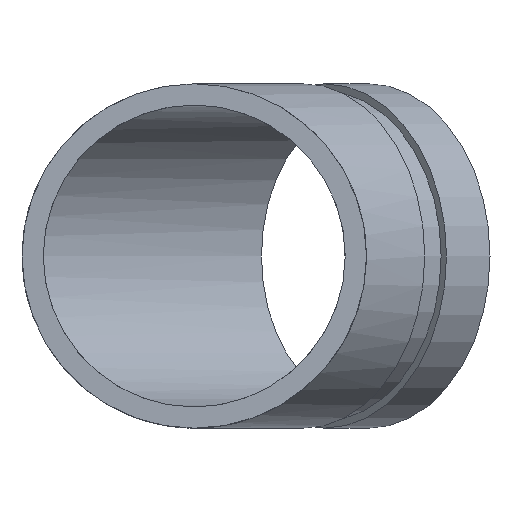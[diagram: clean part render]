
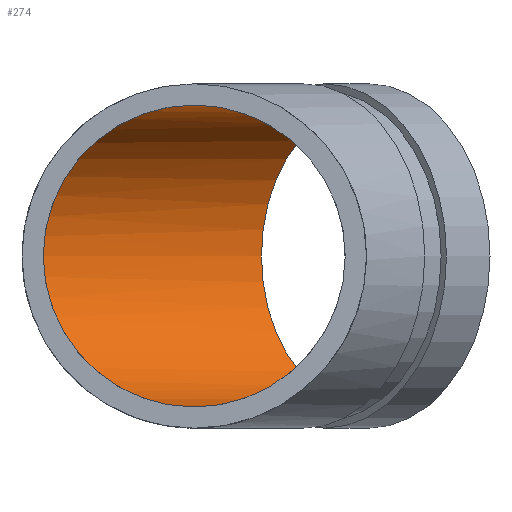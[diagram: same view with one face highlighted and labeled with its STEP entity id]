
A CAD part, front view. The second image highlights one B-rep face of the part: STEP entity #274.
In plain terms, the highlighted cylindrical face has radius 38.964 mm (diameter 77.927 mm), a full revolution.
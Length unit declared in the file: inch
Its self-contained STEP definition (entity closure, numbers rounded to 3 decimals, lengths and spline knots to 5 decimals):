
#45=ELLIPSE('',#322,1.66039,1.534);
#46=ELLIPSE('',#323,1.66039,1.534);
#47=ELLIPSE('',#324,1.66039,1.534);
#72=FACE_OUTER_BOUND('',#90,.T.);
#90=EDGE_LOOP('',(#219,#220,#221,#222,#223,#224));
#102=LINE('',#510,#110);
#110=VECTOR('',#413,1.534);
#128=CIRCLE('',#327,1.534);
#143=VERTEX_POINT('',#498);
#144=VERTEX_POINT('',#499);
#145=VERTEX_POINT('',#501);
#147=VERTEX_POINT('',#508);
#169=EDGE_CURVE('',#143,#144,#45,.T.);
#170=EDGE_CURVE('',#143,#145,#46,.T.);
#171=EDGE_CURVE('',#144,#145,#47,.T.);
#174=EDGE_CURVE('',#147,#147,#128,.T.);
#175=EDGE_CURVE('',#147,#144,#102,.T.);
#219=ORIENTED_EDGE('',*,*,#174,.F.);
#220=ORIENTED_EDGE('',*,*,#175,.T.);
#221=ORIENTED_EDGE('',*,*,#171,.T.);
#222=ORIENTED_EDGE('',*,*,#170,.F.);
#223=ORIENTED_EDGE('',*,*,#169,.T.);
#224=ORIENTED_EDGE('',*,*,#175,.F.);
#246=CYLINDRICAL_SURFACE('',#326,1.534);
#274=ADVANCED_FACE('',(#72),#246,.F.);
#322=AXIS2_PLACEMENT_3D('',#500,#400,#401);
#323=AXIS2_PLACEMENT_3D('',#502,#402,#403);
#324=AXIS2_PLACEMENT_3D('',#503,#404,#405);
#326=AXIS2_PLACEMENT_3D('',#507,#409,#410);
#327=AXIS2_PLACEMENT_3D('',#509,#411,#412);
#400=DIRECTION('center_axis',(-0.383,-0.924,0.));
#401=DIRECTION('ref_axis',(0.924,-0.383,0.));
#402=DIRECTION('center_axis',(0.383,0.924,0.));
#403=DIRECTION('ref_axis',(0.924,-0.383,0.));
#404=DIRECTION('center_axis',(-0.383,-0.924,0.));
#405=DIRECTION('ref_axis',(0.924,-0.383,0.));
#409=DIRECTION('center_axis',(-0.707,-0.707,0.));
#410=DIRECTION('ref_axis',(0.707,-0.707,0.));
#411=DIRECTION('center_axis',(-0.707,-0.707,0.));
#412=DIRECTION('ref_axis',(0.707,-0.707,0.));
#413=DIRECTION('',(-0.707,-0.707,0.));
#498=CARTESIAN_POINT('',(0.,0.,1.534));
#499=CARTESIAN_POINT('',(-1.534,0.6354,0.));
#500=CARTESIAN_POINT('Origin',(0.,0.,0.));
#501=CARTESIAN_POINT('',(0.,0.,-1.534));
#502=CARTESIAN_POINT('Origin',(0.,0.,0.));
#503=CARTESIAN_POINT('Origin',(0.,0.,0.));
#507=CARTESIAN_POINT('Origin',(1.76777,1.76777,0.));
#508=CARTESIAN_POINT('',(0.68307,2.85247,0.));
#509=CARTESIAN_POINT('Origin',(1.76777,1.76777,0.));
#510=CARTESIAN_POINT('',(0.68307,2.85247,0.));
